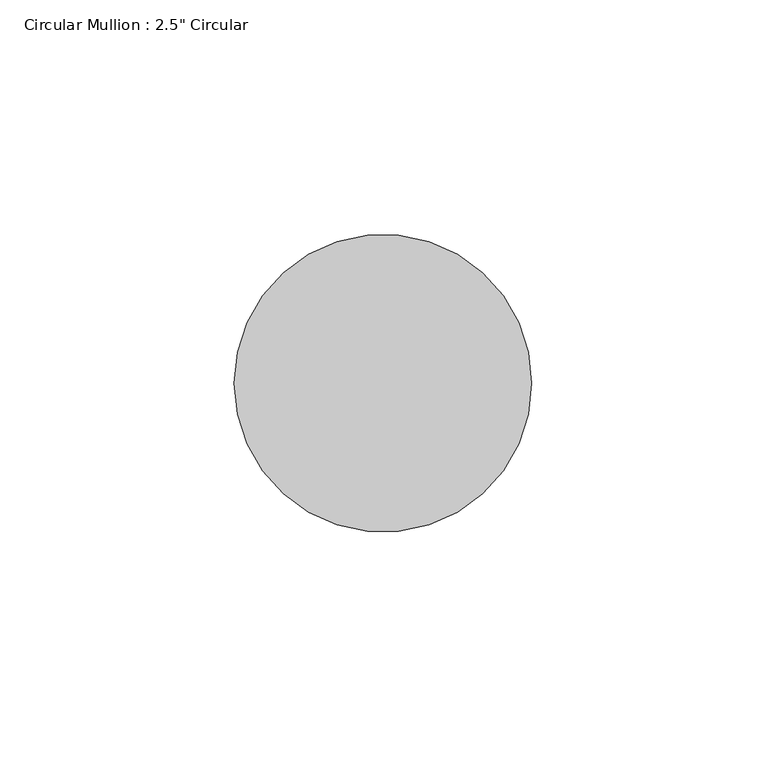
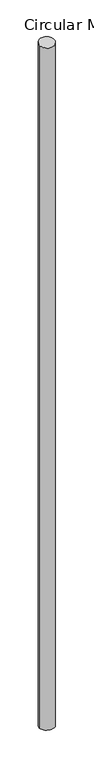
"""IFC4 building model written with IfcOpenShell, lengths in millimetres: member geometry."""

from ifc_helpers import new_model, si_unit, frame, origin, origin_with_axes, place, context, project, spatial, ellipse_curve, source, transform, mapped, element, save
from ifc_brep_helpers import plane_surface, cylinder_surface, advanced_brep


def member_ffd43734(model_context):
    return source(origin(), model_context, "Body", "AdvancedBrep", [
        advanced_brep(
        [(-31.75, 0.0, -0.6659599), (31.75, 0.0, 0.6659599), (31.75, 0.0, -3042.5222032), (-31.75, 0.0, -3041.4438892)],
        [
            (0, 1, ellipse_curve(frame((0.0, 0.0, 0.0), z_axis=(0.020864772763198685, 0.10029087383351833, -0.9947393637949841), x_axis=(0.20260994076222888, 0.9738868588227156, 0.10243826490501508)), 31.9179085, 31.75)),
            (1, 2),
            (2, 3, ellipse_curve(frame((0.0, 0.0, -3041.9830462), z_axis=(0.01691868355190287, 0.08412764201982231, 0.9963113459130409), x_axis=(-0.1964325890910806, -0.9767551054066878, 0.08581201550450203)), 31.8675484, 31.75)),
            (3, 0),
            (1, 0, ellipse_curve(frame((0.0, 0.0, 0.0), z_axis=(0.020864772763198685, 0.10029087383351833, -0.9947393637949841), x_axis=(0.20260994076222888, 0.9738868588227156, 0.10243826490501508)), 31.9179085, 31.75)),
            (3, 2, ellipse_curve(frame((0.0, 0.0, -3041.9830462), z_axis=(0.01691868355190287, 0.08412764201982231, 0.9963113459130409), x_axis=(-0.1964325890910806, -0.9767551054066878, 0.08581201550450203)), 31.8675484, 31.75)),
        ],
        [
            cylinder_surface(origin_with_axes(), 31.75),
            plane_surface(frame((298.4105439, -62.0821013, 0.0), z_axis=(-0.020864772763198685, -0.10029087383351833, 0.9947393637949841), x_axis=(-0.20260994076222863, -0.9738868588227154, -0.10243826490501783))),
            plane_surface(frame((298.8171894, -60.0943203, -3041.9830462), z_axis=(-0.01691868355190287, -0.08412764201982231, -0.9963113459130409), x_axis=(-0.19643258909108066, -0.9767551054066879, 0.08581201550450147))),
        ],
        [
            (0, [[1, 2, 3, 4]]),
            (0, [[5, -4, 6, -2]]),
            (1, [[-1, -5]]),
            (2, [[-6, -3]]),
        ],
    ),
    ])


if __name__ == "__main__":
    model = new_model("IFC4")
    model_context = context("Model", 3, world=origin())
    ifc_project = project(units=[si_unit("LENGTHUNIT", "METRE", prefix="MILLI")], contexts=[model_context])
    site = spatial("IfcSite", under=ifc_project)
    building = spatial("IfcBuilding", under=site)
    placement = place(None, origin())
    member_shape = member_ffd43734(model_context)
    element("IfcMember", 1, ObjectType="Circular Mullion : 2.5\" Circular", at=placement, inside=building, context=model_context, shape_type="MappedRepresentation", body=[
        mapped(member_shape, transform((0.0, 0.0, 0.0), x_axis=(1.0, 0.0, 0.0), y_axis=(0.0, 1.0, 0.0), z_axis=(0.0, 0.0, 1.0))),
    ])
    save(model, "model.ifc")
